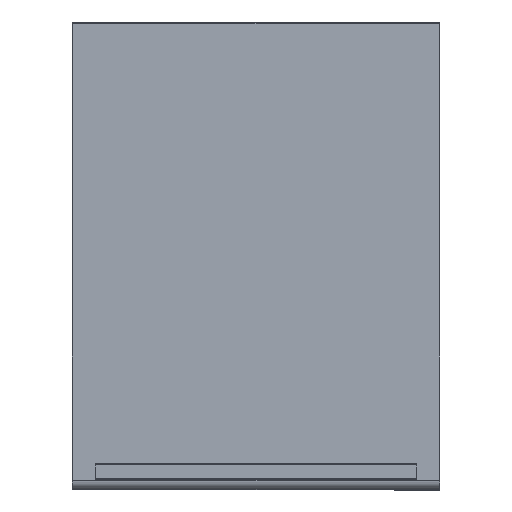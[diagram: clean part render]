
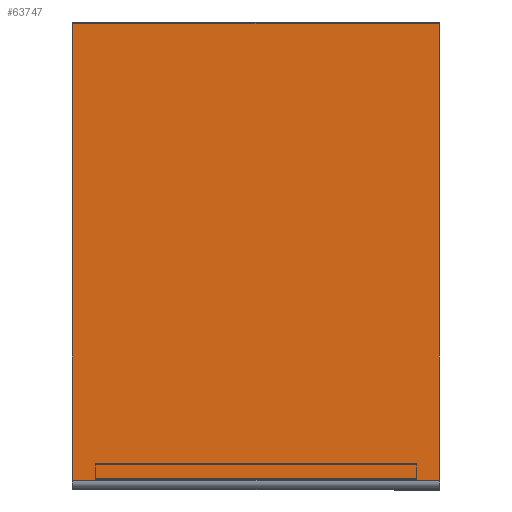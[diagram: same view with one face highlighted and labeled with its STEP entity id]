
A CAD part, top view. The second image highlights one B-rep face of the part: STEP entity #63747.
In plain terms, the highlighted planar face has unit normal (0, 0, 1).
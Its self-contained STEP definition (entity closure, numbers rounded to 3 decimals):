
#6585=LINE('',#113067,#12357);
#6586=LINE('',#113069,#12358);
#6587=LINE('',#113070,#12359);
#6588=LINE('',#113072,#12360);
#12357=VECTOR('',#81907,1000.);
#12358=VECTOR('',#81908,1000.);
#12359=VECTOR('',#81909,1000.);
#12360=VECTOR('',#81910,1000.);
#27667=ORIENTED_EDGE('',*,*,#39347,.F.);
#27668=ORIENTED_EDGE('',*,*,#39348,.T.);
#27669=ORIENTED_EDGE('',*,*,#39349,.T.);
#27670=ORIENTED_EDGE('',*,*,#39350,.T.);
#39347=EDGE_CURVE('',#46304,#46313,#6585,.T.);
#39348=EDGE_CURVE('',#46304,#46310,#6586,.T.);
#39349=EDGE_CURVE('',#46310,#46314,#6587,.T.);
#39350=EDGE_CURVE('',#46314,#46313,#6588,.T.);
#46304=VERTEX_POINT('',#113047);
#46310=VERTEX_POINT('',#113060);
#46313=VERTEX_POINT('',#113068);
#46314=VERTEX_POINT('',#113071);
#53477=EDGE_LOOP('',(#27667,#27668,#27669,#27670));
#58110=FACE_BOUND('',#53477,.T.);
#60785=PLANE('',#68770);
#63747=ADVANCED_FACE('',(#58110),#60785,.T.);
#68770=AXIS2_PLACEMENT_3D('',#113066,#81905,#81906);
#81905=DIRECTION('',(0.,0.,1.));
#81906=DIRECTION('',(0.,-1.,0.));
#81907=DIRECTION('',(1.,0.,0.));
#81908=DIRECTION('',(0.,-1.,0.));
#81909=DIRECTION('',(1.,0.,0.));
#81910=DIRECTION('',(0.,1.,0.));
#113047=CARTESIAN_POINT('',(-201.798,251.148,21.));
#113060=CARTESIAN_POINT('',(-201.798,-251.85,21.));
#113066=CARTESIAN_POINT('',(-202.5,251.85,21.));
#113067=CARTESIAN_POINT('',(-202.5,251.148,21.));
#113068=CARTESIAN_POINT('',(201.798,251.148,21.));
#113069=CARTESIAN_POINT('',(-201.798,251.148,21.));
#113070=CARTESIAN_POINT('',(-202.5,-251.85,21.));
#113071=CARTESIAN_POINT('',(201.798,-251.85,21.));
#113072=CARTESIAN_POINT('',(201.798,-251.85,21.));
